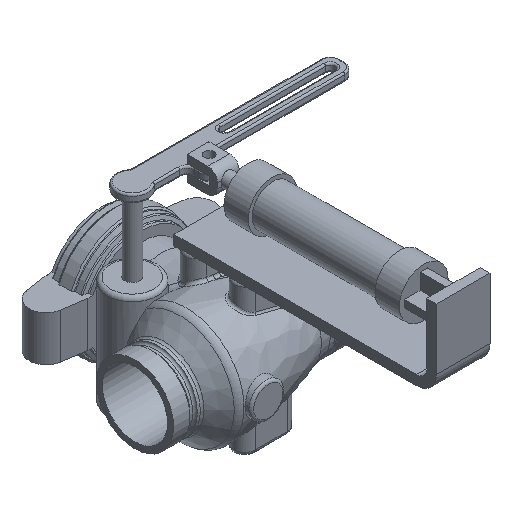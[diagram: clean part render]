
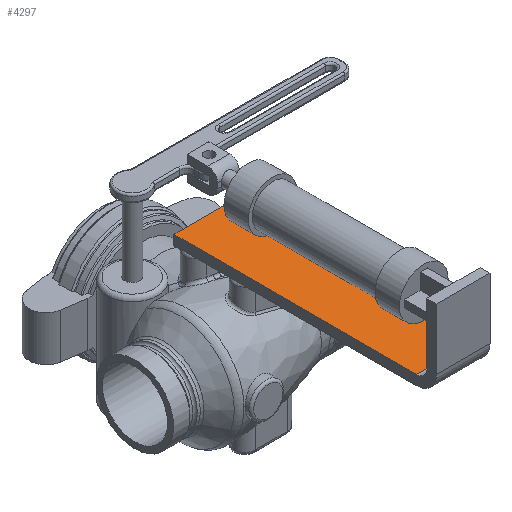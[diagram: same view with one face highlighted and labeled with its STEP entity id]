
A CAD part, isometric view. The second image highlights one B-rep face of the part: STEP entity #4297.
In plain terms, the highlighted planar face has unit normal (0, 0, 1).
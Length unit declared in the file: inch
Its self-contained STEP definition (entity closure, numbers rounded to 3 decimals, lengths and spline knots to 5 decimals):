
#221=PLANE('',#4613);
#306=FACE_OUTER_BOUND('',#565,.T.);
#565=EDGE_LOOP('',(#2941,#2942,#2943,#2944));
#847=LINE('',#6519,#1079);
#875=LINE('',#6593,#1107);
#881=LINE('',#6605,#1113);
#883=LINE('',#6608,#1115);
#1079=VECTOR('',#5234,0.3937);
#1107=VECTOR('',#5304,0.3937);
#1113=VECTOR('',#5316,0.3937);
#1115=VECTOR('',#5320,0.3937);
#1711=VERTEX_POINT('',#6516);
#1712=VERTEX_POINT('',#6518);
#1736=VERTEX_POINT('',#6589);
#1740=VERTEX_POINT('',#6604);
#2139=EDGE_CURVE('',#1712,#1711,#847,.T.);
#2178=EDGE_CURVE('',#1712,#1736,#875,.T.);
#2184=EDGE_CURVE('',#1740,#1736,#881,.T.);
#2186=EDGE_CURVE('',#1711,#1740,#883,.T.);
#2941=ORIENTED_EDGE('',*,*,#2178,.F.);
#2942=ORIENTED_EDGE('',*,*,#2139,.T.);
#2943=ORIENTED_EDGE('',*,*,#2186,.T.);
#2944=ORIENTED_EDGE('',*,*,#2184,.T.);
#4297=ADVANCED_FACE('',(#306),#221,.T.);
#4613=AXIS2_PLACEMENT_3D('',#6610,#5323,#5324);
#5234=DIRECTION('',(0.,1.,0.));
#5304=DIRECTION('',(-1.,0.,0.));
#5316=DIRECTION('',(0.,-1.,0.));
#5320=DIRECTION('',(-1.,0.,0.));
#5323=DIRECTION('center_axis',(0.,0.,1.));
#5324=DIRECTION('ref_axis',(1.,0.,0.));
#6516=CARTESIAN_POINT('',(1.81,2.18,4.37));
#6518=CARTESIAN_POINT('',(1.81,-10.28,4.37));
#6519=CARTESIAN_POINT('',(1.81,-11.28,4.37));
#6589=CARTESIAN_POINT('',(-0.94,-10.28,4.37));
#6593=CARTESIAN_POINT('',(1.1225,-10.28,4.37));
#6604=CARTESIAN_POINT('',(-0.94,2.18,4.37));
#6605=CARTESIAN_POINT('',(-0.94,2.18,4.37));
#6608=CARTESIAN_POINT('',(1.81,2.18,4.37));
#6610=CARTESIAN_POINT('Origin',(0.435,-4.55,4.37));
